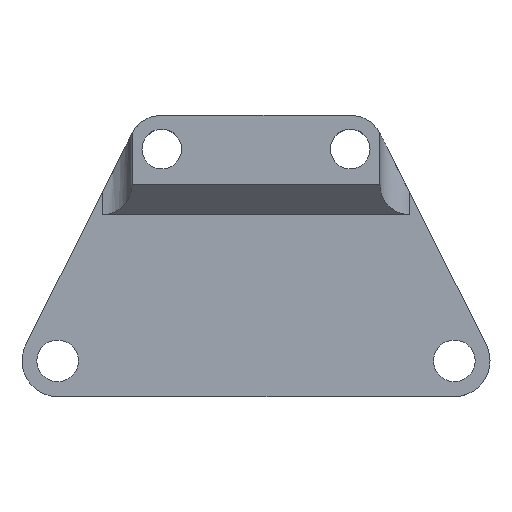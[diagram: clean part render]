
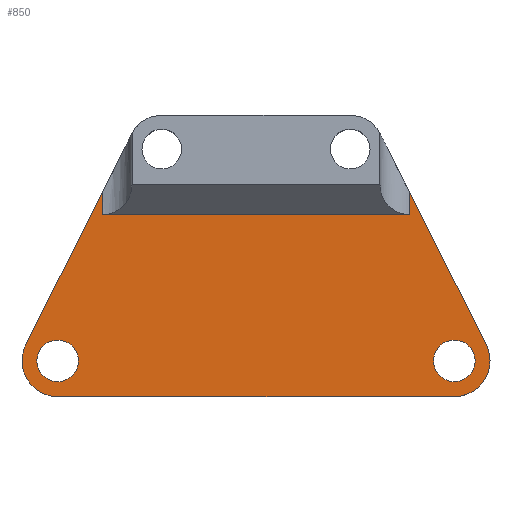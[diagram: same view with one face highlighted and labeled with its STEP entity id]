
A CAD part, top view. The second image highlights one B-rep face of the part: STEP entity #850.
In plain terms, the highlighted planar face has unit normal (0, 0, 1).
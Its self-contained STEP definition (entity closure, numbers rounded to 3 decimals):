
#3 = CARTESIAN_POINT ( 'NONE',  ( 7., 11.346, 3. ) ) ;
#6 = CIRCLE ( 'NONE', #331, 3.6 ) ;
#8 = EDGE_CURVE ( 'NONE', #1214, #533, #6, .T. ) ;
#75 = LINE ( 'NONE', #465, #797 ) ;
#88 = CIRCLE ( 'NONE', #170, 2.1 ) ;
#104 = DIRECTION ( 'NONE',  ( 1., 0., 0. ) ) ;
#113 = DIRECTION ( 'NONE',  ( 1., 0., 0. ) ) ;
#129 = CIRCLE ( 'NONE', #1202, 2.1 ) ;
#170 = AXIS2_PLACEMENT_3D ( 'NONE', #3, #668, #113 ) ;
#176 = CARTESIAN_POINT ( 'NONE',  ( 44.9, 11.346, 3. ) ) ;
#187 = ORIENTED_EDGE ( 'NONE', *, *, #770, .T. ) ;
#191 = DIRECTION ( 'NONE',  ( 0., 1., 0. ) ) ;
#201 = LINE ( 'NONE', #687, #1182 ) ;
#203 = FACE_BOUND ( 'NONE', #430, .T. ) ;
#205 = DIRECTION ( 'NONE',  ( 1., 0., 0. ) ) ;
#214 = CIRCLE ( 'NONE', #1141, 2.1 ) ;
#225 = DIRECTION ( 'NONE',  ( 0., 0., 1. ) ) ;
#239 = ORIENTED_EDGE ( 'NONE', *, *, #1099, .T. ) ;
#241 = CARTESIAN_POINT ( 'NONE',  ( 11.5, 34.296, 3. ) ) ;
#246 = EDGE_CURVE ( 'NONE', #753, #1093, #1206, .T. ) ;
#251 = AXIS2_PLACEMENT_3D ( 'NONE', #313, #1088, #590 ) ;
#275 = DIRECTION ( 'NONE',  ( 0., 0., 1. ) ) ;
#283 = VERTEX_POINT ( 'NONE', #565 ) ;
#290 = CARTESIAN_POINT ( 'NONE',  ( 49.1, 11.346, 3. ) ) ;
#313 = CARTESIAN_POINT ( 'NONE',  ( 0., 0., 3. ) ) ;
#331 = AXIS2_PLACEMENT_3D ( 'NONE', #416, #225, #1004 ) ;
#336 = AXIS2_PLACEMENT_3D ( 'NONE', #803, #511, #205 ) ;
#340 = CARTESIAN_POINT ( 'NONE',  ( 50.6, 11.346, 3. ) ) ;
#347 = CARTESIAN_POINT ( 'NONE',  ( 9.1, 11.346, 3. ) ) ;
#352 = AXIS2_PLACEMENT_3D ( 'NONE', #397, #780, #104 ) ;
#357 = VECTOR ( 'NONE', #1192, 1000. ) ;
#377 = CARTESIAN_POINT ( 'NONE',  ( 39.538, 34.222, 3. ) ) ;
#382 = CARTESIAN_POINT ( 'NONE',  ( 7., 11.346, 3. ) ) ;
#388 = CARTESIAN_POINT ( 'NONE',  ( 11.5, 26.096, 3. ) ) ;
#393 = CARTESIAN_POINT ( 'NONE',  ( 3.783, 12.962, 3. ) ) ;
#397 = CARTESIAN_POINT ( 'NONE',  ( 47., 11.346, 3. ) ) ;
#411 = CARTESIAN_POINT ( 'NONE',  ( 42.5, 26.096, 3. ) ) ;
#416 = CARTESIAN_POINT ( 'NONE',  ( 47., 11.346, 3. ) ) ;
#430 = EDGE_LOOP ( 'NONE', ( #962, #927 ) ) ;
#440 = CARTESIAN_POINT ( 'NONE',  ( 42.5, 26.096, 3. ) ) ;
#445 = EDGE_CURVE ( 'NONE', #533, #576, #880, .T. ) ;
#465 = CARTESIAN_POINT ( 'NONE',  ( 47., 7.746, 3. ) ) ;
#475 = VECTOR ( 'NONE', #191, 1000. ) ;
#491 = ORIENTED_EDGE ( 'NONE', *, *, #1223, .F. ) ;
#511 = DIRECTION ( 'NONE',  ( 0., 0., 1. ) ) ;
#529 = CARTESIAN_POINT ( 'NONE',  ( 50.217, 12.962, 3. ) ) ;
#533 = VERTEX_POINT ( 'NONE', #340 ) ;
#534 = LINE ( 'NONE', #440, #982 ) ;
#540 = ORIENTED_EDGE ( 'NONE', *, *, #805, .T. ) ;
#565 = CARTESIAN_POINT ( 'NONE',  ( 7., 7.746, 3. ) ) ;
#576 = VERTEX_POINT ( 'NONE', #529 ) ;
#582 = VERTEX_POINT ( 'NONE', #930 ) ;
#590 = DIRECTION ( 'NONE',  ( -1., 0., 0. ) ) ;
#594 = ORIENTED_EDGE ( 'NONE', *, *, #8, .T. ) ;
#659 = EDGE_CURVE ( 'NONE', #680, #865, #534, .T. ) ;
#664 = DIRECTION ( 'NONE',  ( 1., 0., 0. ) ) ;
#668 = DIRECTION ( 'NONE',  ( 0., 0., 1. ) ) ;
#674 = CIRCLE ( 'NONE', #352, 2.1 ) ;
#680 = VERTEX_POINT ( 'NONE', #1235 ) ;
#687 = CARTESIAN_POINT ( 'NONE',  ( 14.5, 26.096, 3. ) ) ;
#700 = EDGE_LOOP ( 'NONE', ( #239, #1239, #702, #540, #889, #594, #890, #187, #844 ) ) ;
#702 = ORIENTED_EDGE ( 'NONE', *, *, #867, .T. ) ;
#703 = FACE_BOUND ( 'NONE', #1150, .T. ) ;
#707 = EDGE_CURVE ( 'NONE', #1010, #582, #214, .T. ) ;
#732 = VECTOR ( 'NONE', #1229, 1000. ) ;
#733 = CIRCLE ( 'NONE', #1061, 3.6 ) ;
#753 = VERTEX_POINT ( 'NONE', #388 ) ;
#766 = CARTESIAN_POINT ( 'NONE',  ( 47., 7.746, 3. ) ) ;
#770 = EDGE_CURVE ( 'NONE', #576, #680, #1241, .T. ) ;
#780 = DIRECTION ( 'NONE',  ( 0., 0., 1. ) ) ;
#797 = VECTOR ( 'NONE', #846, 1000. ) ;
#803 = CARTESIAN_POINT ( 'NONE',  ( 47., 11.346, 3. ) ) ;
#805 = EDGE_CURVE ( 'NONE', #860, #283, #733, .T. ) ;
#823 = CARTESIAN_POINT ( 'NONE',  ( 47., 11.346, 3. ) ) ;
#825 = EDGE_CURVE ( 'NONE', #283, #1214, #75, .T. ) ;
#844 = ORIENTED_EDGE ( 'NONE', *, *, #659, .T. ) ;
#846 = DIRECTION ( 'NONE',  ( 1., 0., 0. ) ) ;
#850 = ADVANCED_FACE ( 'NONE', ( #203, #703, #1177 ), #892, .F. ) ;
#860 = VERTEX_POINT ( 'NONE', #1186 ) ;
#861 = CARTESIAN_POINT ( 'NONE',  ( 7., 11.346, 3. ) ) ;
#865 = VERTEX_POINT ( 'NONE', #411 ) ;
#867 = EDGE_CURVE ( 'NONE', #1093, #860, #994, .T. ) ;
#880 = CIRCLE ( 'NONE', #336, 3.6 ) ;
#889 = ORIENTED_EDGE ( 'NONE', *, *, #825, .T. ) ;
#890 = ORIENTED_EDGE ( 'NONE', *, *, #445, .T. ) ;
#892 = PLANE ( 'NONE',  #251 ) ;
#897 = ORIENTED_EDGE ( 'NONE', *, *, #707, .F. ) ;
#927 = ORIENTED_EDGE ( 'NONE', *, *, #993, .F. ) ;
#930 = CARTESIAN_POINT ( 'NONE',  ( 4.9, 11.346, 3. ) ) ;
#933 = DIRECTION ( 'NONE',  ( 1., 0., 0. ) ) ;
#962 = ORIENTED_EDGE ( 'NONE', *, *, #1146, .F. ) ;
#973 = DIRECTION ( 'NONE',  ( -1., 0., 0. ) ) ;
#982 = VECTOR ( 'NONE', #1024, 1000. ) ;
#993 = EDGE_CURVE ( 'NONE', #1233, #1023, #129, .T. ) ;
#994 = LINE ( 'NONE', #393, #357 ) ;
#1004 = DIRECTION ( 'NONE',  ( 1., 0., 0. ) ) ;
#1010 = VERTEX_POINT ( 'NONE', #347 ) ;
#1023 = VERTEX_POINT ( 'NONE', #176 ) ;
#1024 = DIRECTION ( 'NONE',  ( 0., -1., 0. ) ) ;
#1042 = DIRECTION ( 'NONE',  ( 1., 0., 0. ) ) ;
#1061 = AXIS2_PLACEMENT_3D ( 'NONE', #382, #1145, #664 ) ;
#1088 = DIRECTION ( 'NONE',  ( 0., 0., -1. ) ) ;
#1093 = VERTEX_POINT ( 'NONE', #1247 ) ;
#1099 = EDGE_CURVE ( 'NONE', #865, #753, #201, .T. ) ;
#1128 = DIRECTION ( 'NONE',  ( 0., 0., 1. ) ) ;
#1141 = AXIS2_PLACEMENT_3D ( 'NONE', #861, #275, #1042 ) ;
#1145 = DIRECTION ( 'NONE',  ( 0., 0., 1. ) ) ;
#1146 = EDGE_CURVE ( 'NONE', #1023, #1233, #674, .T. ) ;
#1150 = EDGE_LOOP ( 'NONE', ( #491, #897 ) ) ;
#1177 = FACE_OUTER_BOUND ( 'NONE', #700, .T. ) ;
#1182 = VECTOR ( 'NONE', #973, 1000. ) ;
#1186 = CARTESIAN_POINT ( 'NONE',  ( 3.783, 12.962, 3. ) ) ;
#1192 = DIRECTION ( 'NONE',  ( -0.449, -0.894, 0. ) ) ;
#1202 = AXIS2_PLACEMENT_3D ( 'NONE', #823, #1128, #933 ) ;
#1206 = LINE ( 'NONE', #241, #475 ) ;
#1214 = VERTEX_POINT ( 'NONE', #766 ) ;
#1223 = EDGE_CURVE ( 'NONE', #582, #1010, #88, .T. ) ;
#1229 = DIRECTION ( 'NONE',  ( -0.449, 0.894, 0. ) ) ;
#1233 = VERTEX_POINT ( 'NONE', #290 ) ;
#1235 = CARTESIAN_POINT ( 'NONE',  ( 42.5, 28.326, 3. ) ) ;
#1239 = ORIENTED_EDGE ( 'NONE', *, *, #246, .T. ) ;
#1241 = LINE ( 'NONE', #377, #732 ) ;
#1247 = CARTESIAN_POINT ( 'NONE',  ( 11.5, 28.326, 3. ) ) ;
